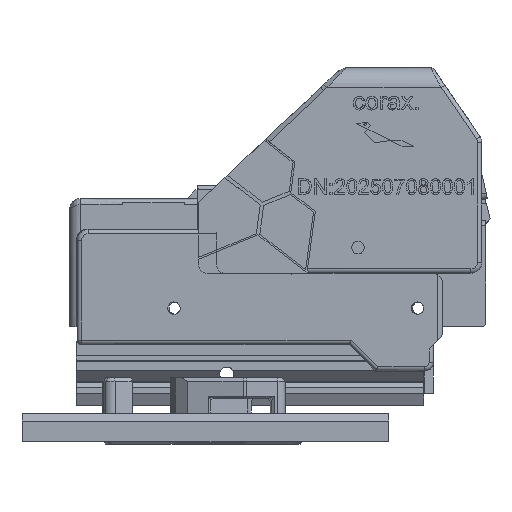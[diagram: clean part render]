
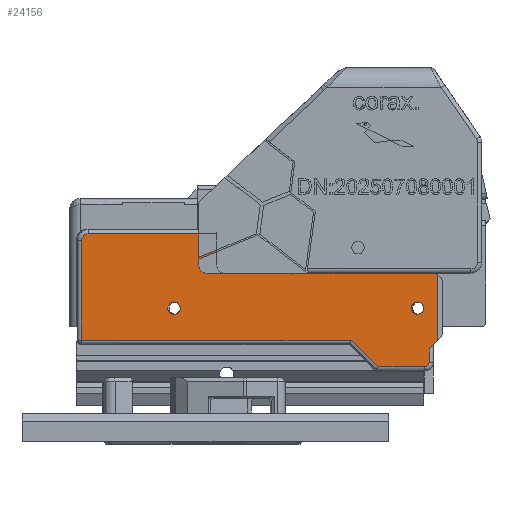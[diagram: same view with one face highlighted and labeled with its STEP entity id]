
A CAD part, left-side view. The second image highlights one B-rep face of the part: STEP entity #24156.
In plain terms, the highlighted planar face has unit normal (-1, 0, 0).
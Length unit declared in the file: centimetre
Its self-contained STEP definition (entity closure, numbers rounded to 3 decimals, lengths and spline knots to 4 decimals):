
#1153=FACE_BOUND($,#4668,.T.);
#1154=FACE_BOUND($,#4669,.T.);
#1550=CIRCLE($,#25376,0.1);
#1558=CIRCLE($,#25396,0.2);
#1559=CIRCLE($,#25397,0.15);
#1560=CIRCLE($,#25398,0.225);
#1561=CIRCLE($,#25399,0.14);
#1562=CIRCLE($,#25400,0.14);
#2082=PLANE($,#25395);
#3301=FACE_OUTER_BOUND($,#4667,.T.);
#4667=EDGE_LOOP($,(#20811,#20812,#20813,#20814,#20815,#20816,#20817,#20818,
#20819,#20820,#20821,#20822,#20823,#20824,#20825,#20826,#20827,#20828,#20829));
#4668=EDGE_LOOP($,(#20830));
#4669=EDGE_LOOP($,(#20831));
#6548=LINE($,#41589,#9023);
#6552=LINE($,#41597,#9027);
#6637=LINE($,#41840,#9112);
#6639=LINE($,#41860,#9114);
#6640=LINE($,#41866,#9115);
#6642=LINE($,#41870,#9117);
#6650=LINE($,#41892,#9125);
#6655=LINE($,#41906,#9130);
#6656=LINE($,#41908,#9131);
#6657=LINE($,#41910,#9132);
#6658=LINE($,#41911,#9133);
#6659=LINE($,#41915,#9134);
#6660=LINE($,#41917,#9135);
#6661=LINE($,#41920,#9136);
#6662=LINE($,#41922,#9137);
#9023=VECTOR($,#28778,3.1277);
#9027=VECTOR($,#28782,1.4621);
#9112=VECTOR($,#28955,1.0586);
#9114=VECTOR($,#28967,0.8485);
#9115=VECTOR($,#28974,0.3);
#9117=VECTOR($,#28978,6.0914);
#9125=VECTOR($,#29002,2.25);
#9130=VECTOR($,#29017,0.0087);
#9131=VECTOR($,#29018,0.04);
#9132=VECTOR($,#29019,0.0232);
#9133=VECTOR($,#29020,0.0517);
#9134=VECTOR($,#29023,0.6913);
#9135=VECTOR($,#29024,2.9);
#9136=VECTOR($,#29027,0.2828);
#9137=VECTOR($,#29028,1.4707);
#11710=VERTEX_POINT($,#41587);
#11711=VERTEX_POINT($,#41588);
#11714=VERTEX_POINT($,#41594);
#11715=VERTEX_POINT($,#41596);
#11790=VERTEX_POINT($,#41837);
#11791=VERTEX_POINT($,#41839);
#11793=VERTEX_POINT($,#41852);
#11795=VERTEX_POINT($,#41859);
#11797=VERTEX_POINT($,#41864);
#11798=VERTEX_POINT($,#41869);
#11804=VERTEX_POINT($,#41891);
#11808=VERTEX_POINT($,#41905);
#11809=VERTEX_POINT($,#41907);
#11810=VERTEX_POINT($,#41909);
#11811=VERTEX_POINT($,#41912);
#11812=VERTEX_POINT($,#41914);
#11813=VERTEX_POINT($,#41916);
#11814=VERTEX_POINT($,#41919);
#11815=VERTEX_POINT($,#41921);
#11816=VERTEX_POINT($,#41924);
#11817=VERTEX_POINT($,#41926);
#14825=EDGE_CURVE($,#11710,#11711,#6548,.T.);
#14829=EDGE_CURVE($,#11715,#11714,#6552,.T.);
#14933=EDGE_CURVE($,#11790,#11791,#6637,.T.);
#14936=EDGE_CURVE($,#11793,#11790,#1550,.T.);
#14939=EDGE_CURVE($,#11791,#11795,#6639,.T.);
#14942=EDGE_CURVE($,#11797,#11793,#6640,.T.);
#14944=EDGE_CURVE($,#11795,#11798,#6642,.T.);
#14956=EDGE_CURVE($,#11798,#11804,#6650,.T.);
#14963=EDGE_CURVE($,#11711,#11808,#6655,.F.);
#14964=EDGE_CURVE($,#11809,#11808,#6656,.T.);
#14965=EDGE_CURVE($,#11809,#11810,#6657,.T.);
#14966=EDGE_CURVE($,#11810,#11715,#6658,.F.);
#14967=EDGE_CURVE($,#11714,#11811,#1558,.T.);
#14968=EDGE_CURVE($,#11811,#11812,#6659,.T.);
#14969=EDGE_CURVE($,#11813,#11812,#6660,.T.);
#14970=EDGE_CURVE($,#11804,#11813,#1559,.T.);
#14971=EDGE_CURVE($,#11814,#11797,#6661,.T.);
#14972=EDGE_CURVE($,#11815,#11814,#6662,.T.);
#14973=EDGE_CURVE($,#11710,#11815,#1560,.T.);
#14974=EDGE_CURVE($,#11816,#11816,#1561,.T.);
#14975=EDGE_CURVE($,#11817,#11817,#1562,.T.);
#20811=ORIENTED_EDGE($,*,*,#14825,.T.);
#20812=ORIENTED_EDGE($,*,*,#14963,.T.);
#20813=ORIENTED_EDGE($,*,*,#14964,.F.);
#20814=ORIENTED_EDGE($,*,*,#14965,.T.);
#20815=ORIENTED_EDGE($,*,*,#14966,.T.);
#20816=ORIENTED_EDGE($,*,*,#14829,.T.);
#20817=ORIENTED_EDGE($,*,*,#14967,.T.);
#20818=ORIENTED_EDGE($,*,*,#14968,.T.);
#20819=ORIENTED_EDGE($,*,*,#14969,.F.);
#20820=ORIENTED_EDGE($,*,*,#14970,.F.);
#20821=ORIENTED_EDGE($,*,*,#14956,.F.);
#20822=ORIENTED_EDGE($,*,*,#14944,.F.);
#20823=ORIENTED_EDGE($,*,*,#14939,.F.);
#20824=ORIENTED_EDGE($,*,*,#14933,.F.);
#20825=ORIENTED_EDGE($,*,*,#14936,.F.);
#20826=ORIENTED_EDGE($,*,*,#14942,.F.);
#20827=ORIENTED_EDGE($,*,*,#14971,.F.);
#20828=ORIENTED_EDGE($,*,*,#14972,.F.);
#20829=ORIENTED_EDGE($,*,*,#14973,.F.);
#20830=ORIENTED_EDGE($,*,*,#14974,.T.);
#20831=ORIENTED_EDGE($,*,*,#14975,.T.);
#24156=ADVANCED_FACE($,(#3301,#1153,#1154),#2082,.F.);
#25376=AXIS2_PLACEMENT_3D($,#41854,#28960,#28961);
#25395=AXIS2_PLACEMENT_3D($,#41904,#29015,#29016);
#25396=AXIS2_PLACEMENT_3D($,#41913,#29021,#29022);
#25397=AXIS2_PLACEMENT_3D($,#41918,#29025,#29026);
#25398=AXIS2_PLACEMENT_3D($,#41923,#29029,#29030);
#25399=AXIS2_PLACEMENT_3D($,#41925,#29031,#29032);
#25400=AXIS2_PLACEMENT_3D($,#41927,#29033,#29034);
#28778=DIRECTION($,(0.,1.,0.));
#28782=DIRECTION($,(0.,1.,0.));
#28955=DIRECTION($,(0.,1.,0.));
#28960=DIRECTION('center_axis',(1.,0.,0.));
#28961=DIRECTION('ref_axis',(0.,-0.707,-0.707));
#28967=DIRECTION($,(0.,0.707,0.707));
#28974=DIRECTION($,(0.,0.,-1.));
#28978=DIRECTION($,(0.,1.,0.));
#29002=DIRECTION($,(0.,0.,1.));
#29015=DIRECTION('center_axis',(1.,0.,0.));
#29016=DIRECTION('ref_axis',(0.,0.,-1.));
#29017=DIRECTION($,(0.,-0.134,0.991));
#29018=DIRECTION($,(0.,-1.,0.));
#29019=DIRECTION($,(0.,0.134,-0.991));
#29020=DIRECTION($,(0.,-0.791,-0.612));
#29021=DIRECTION('center_axis',(1.,0.,0.));
#29022=DIRECTION('ref_axis',(0.,0.707,-0.707));
#29023=DIRECTION($,(0.,0.,1.));
#29024=DIRECTION($,(0.,-1.,0.));
#29025=DIRECTION('center_axis',(1.,0.,0.));
#29026=DIRECTION('ref_axis',(0.,0.707,0.707));
#29027=DIRECTION($,(0.,0.707,-0.707));
#29028=DIRECTION($,(0.,0.,-1.));
#29029=DIRECTION('center_axis',(1.,0.,0.));
#29030=DIRECTION('ref_axis',(0.,-0.707,0.707));
#29031=DIRECTION('center_axis',(1.,0.,0.));
#29032=DIRECTION('ref_axis',(0.,1.,0.));
#29033=DIRECTION('center_axis',(1.,0.,0.));
#29034=DIRECTION('ref_axis',(0.,1.,0.));
#41587=CARTESIAN_POINT('',(-18.3981,10.4539,4.0087));
#41588=CARTESIAN_POINT('',(-18.3981,13.5816,4.0087));
#41589=CARTESIAN_POINT($,(-18.3981,12.8289,4.0087));
#41594=CARTESIAN_POINT('',(-18.3981,15.1289,4.0087));
#41596=CARTESIAN_POINT('',(-18.3981,13.6668,4.0087));
#41597=CARTESIAN_POINT($,(-18.3981,12.8289,4.0087));
#41837=CARTESIAN_POINT('',(-18.3981,10.6289,1.9));
#41839=CARTESIAN_POINT('',(-18.3981,11.6875,1.9));
#41840=CARTESIAN_POINT($,(-18.3981,16.4039,1.9));
#41852=CARTESIAN_POINT('',(-18.3981,10.5289,2.));
#41854=CARTESIAN_POINT('Origin',(-18.3981,10.6289,2.));
#41859=CARTESIAN_POINT('',(-18.3981,12.2875,2.5));
#41860=CARTESIAN_POINT($,(-18.3981,12.7082,2.9207));
#41864=CARTESIAN_POINT('',(-18.3981,10.5289,2.3));
#41866=CARTESIAN_POINT($,(-18.3981,10.5289,2.075));
#41869=CARTESIAN_POINT('',(-18.3981,18.3789,2.5));
#41870=CARTESIAN_POINT($,(-18.3981,13.6539,2.5));
#41891=CARTESIAN_POINT('',(-18.3981,18.3789,4.75));
#41892=CARTESIAN_POINT($,(-18.3981,18.3789,2.075));
#41904=CARTESIAN_POINT('Origin',(-18.3981,14.3789,2.75));
#41905=CARTESIAN_POINT('',(-18.3981,13.5828,4.));
#41906=CARTESIAN_POINT($,(-18.3981,13.6248,3.6896));
#41907=CARTESIAN_POINT('',(-18.3981,13.6228,4.));
#41908=CARTESIAN_POINT($,(-18.3981,14.3789,4.));
#41909=CARTESIAN_POINT('',(-18.3981,13.6259,3.977));
#41910=CARTESIAN_POINT($,(-18.3981,13.664,3.6949));
#41911=CARTESIAN_POINT($,(-18.3981,14.1147,4.3548));
#41912=CARTESIAN_POINT('',(-18.3981,15.3289,4.2087));
#41913=CARTESIAN_POINT('Origin',(-18.3981,15.1289,4.2087));
#41914=CARTESIAN_POINT('',(-18.3981,15.3289,4.9));
#41915=CARTESIAN_POINT($,(-18.3981,15.3289,4.325));
#41916=CARTESIAN_POINT('',(-18.3981,18.2289,4.9));
#41917=CARTESIAN_POINT($,(-18.3981,14.3789,4.9));
#41918=CARTESIAN_POINT('Origin',(-18.3981,18.2289,4.75));
#41919=CARTESIAN_POINT('',(-18.3981,10.3289,2.5));
#41920=CARTESIAN_POINT($,(-18.3981,11.2789,1.55));
#41921=CARTESIAN_POINT('',(-18.3981,10.3289,3.9707));
#41922=CARTESIAN_POINT($,(-18.3981,10.3289,2.75));
#41923=CARTESIAN_POINT('Origin',(-18.3981,10.4539,3.7837));
#41924=CARTESIAN_POINT('',(-18.3981,10.65,3.2227));
#41925=CARTESIAN_POINT('Origin',(-18.3981,10.79,3.2227));
#41926=CARTESIAN_POINT('',(-18.3981,16.15,3.2227));
#41927=CARTESIAN_POINT('Origin',(-18.3981,16.29,3.2227));
